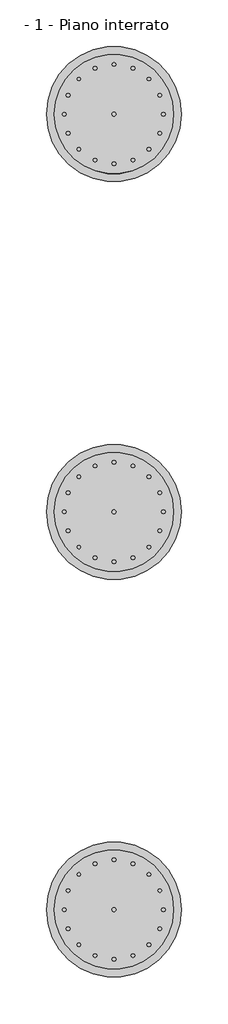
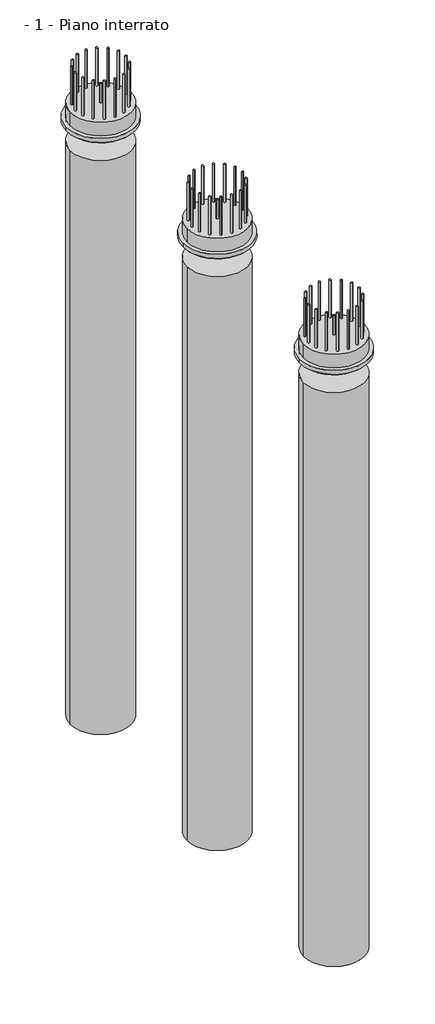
# One storey: 51 proxies.
"""IFC4 building model written with IfcOpenShell, lengths in millimetres."""

from ifc_helpers import new_model, si_unit, origin, place, context, project, spatial, transform, mapped, element, save
from components import generic_models_3b7ed561, generic_models_f891a6ff

model = new_model("IFC4")

# Units and contexts
model_context = context("Model", 3, world=origin())
ifc_project = project(units=[si_unit("LENGTHUNIT", "METRE", prefix="MILLI")], contexts=[model_context])

# Site, building, storey
site = spatial("IfcSite", under=ifc_project)
building = spatial("IfcBuilding", under=site)
storey = spatial("IfcBuildingStorey", under=building, Name="- 1 - Piano interrato", Elevation=-2500.0)

# Proxies
placement = place(None, origin())
generic_models_shape = generic_models_3b7ed561(model_context)
element("IfcBuildingElementProxy", 1, Name="ITA-Connettori su struttura orizzontale sigillati con AKTI-VO 201 : ITA-Connettori su struttura orizzontale sigillati con AKTI-VO 201", ObjectType="ITA-Connettori su struttura orizzontale sigillati con AKTI-VO 201 : ITA-Connettori su struttura orizzontale sigillati con AKTI-VO 201", at=placement, inside=storey, context=model_context, shape_type="MappedRepresentation", body=[
    mapped(generic_models_shape, transform((845.5403408, -12677.0274002, -2900.0), x_axis=(0.0, -1.0, 0.0), y_axis=(1.0, 0.0, 0.0), z_axis=(0.0, 0.0, 1.0))),
])
element("IfcBuildingElementProxy", 2, Name="ITA-Connettori su struttura orizzontale sigillati con AKTI-VO 201 : ITA-Connettori su struttura orizzontale sigillati con AKTI-VO 201", ObjectType="ITA-Connettori su struttura orizzontale sigillati con AKTI-VO 201 : ITA-Connettori su struttura orizzontale sigillati con AKTI-VO 201", at=placement, inside=storey, context=model_context, shape_type="MappedRepresentation", body=[
    mapped(generic_models_shape, transform((855.0553992, -12629.1919711, -2900.0), x_axis=(0.0, -1.0, 0.0), y_axis=(1.0, 0.0, 0.0), z_axis=(0.0, 0.0, 1.0))),
])
element("IfcBuildingElementProxy", 3, Name="ITA-Connettori su struttura orizzontale sigillati con AKTI-VO 201 : ITA-Connettori su struttura orizzontale sigillati con AKTI-VO 201", ObjectType="ITA-Connettori su struttura orizzontale sigillati con AKTI-VO 201 : ITA-Connettori su struttura orizzontale sigillati con AKTI-VO 201", at=placement, inside=storey, context=model_context, shape_type="MappedRepresentation", body=[
    mapped(generic_models_shape, transform((845.5403408, -12581.3565421, -2900.0), x_axis=(0.0, -1.0, 0.0), y_axis=(1.0, 0.0, 0.0), z_axis=(0.0, 0.0, 1.0))),
])
element("IfcBuildingElementProxy", 4, Name="ITA-Connettori su struttura orizzontale sigillati con AKTI-VO 201 : ITA-Connettori su struttura orizzontale sigillati con AKTI-VO 201", ObjectType="ITA-Connettori su struttura orizzontale sigillati con AKTI-VO 201 : ITA-Connettori su struttura orizzontale sigillati con AKTI-VO 201", at=placement, inside=storey, context=model_context, shape_type="MappedRepresentation", body=[
    mapped(generic_models_shape, transform((818.4437469, -12540.8036235, -2900.0), x_axis=(0.0, -1.0, 0.0), y_axis=(1.0, 0.0, 0.0), z_axis=(0.0, 0.0, 1.0))),
])
element("IfcBuildingElementProxy", 5, Name="ITA-Connettori su struttura orizzontale sigillati con AKTI-VO 201 : ITA-Connettori su struttura orizzontale sigillati con AKTI-VO 201", ObjectType="ITA-Connettori su struttura orizzontale sigillati con AKTI-VO 201 : ITA-Connettori su struttura orizzontale sigillati con AKTI-VO 201", at=placement, inside=storey, context=model_context, shape_type="MappedRepresentation", body=[
    mapped(generic_models_shape, transform((777.8908283, -12513.7070296, -2900.0), x_axis=(0.0, -1.0, 0.0), y_axis=(1.0, 0.0, 0.0), z_axis=(0.0, 0.0, 1.0))),
])
element("IfcBuildingElementProxy", 6, Name="ITA-Connettori su struttura orizzontale sigillati con AKTI-VO 201 : ITA-Connettori su struttura orizzontale sigillati con AKTI-VO 201", ObjectType="ITA-Connettori su struttura orizzontale sigillati con AKTI-VO 201 : ITA-Connettori su struttura orizzontale sigillati con AKTI-VO 201", at=placement, inside=storey, context=model_context, shape_type="MappedRepresentation", body=[
    mapped(generic_models_shape, transform((730.0553992, -12504.1919711, -2900.0), x_axis=(0.0, -1.0, 0.0), y_axis=(1.0, 0.0, 0.0), z_axis=(0.0, 0.0, 1.0))),
])
element("IfcBuildingElementProxy", 7, Name="ITA-Connettori su struttura orizzontale sigillati con AKTI-VO 201 : ITA-Connettori su struttura orizzontale sigillati con AKTI-VO 201", ObjectType="ITA-Connettori su struttura orizzontale sigillati con AKTI-VO 201 : ITA-Connettori su struttura orizzontale sigillati con AKTI-VO 201", at=placement, inside=storey, context=model_context, shape_type="MappedRepresentation", body=[
    mapped(generic_models_shape, transform((682.2199702, -12513.7070296, -2900.0), x_axis=(0.0, -1.0, 0.0), y_axis=(1.0, 0.0, 0.0), z_axis=(0.0, 0.0, 1.0))),
])
element("IfcBuildingElementProxy", 8, Name="ITA-Connettori su struttura orizzontale sigillati con AKTI-VO 201 : ITA-Connettori su struttura orizzontale sigillati con AKTI-VO 201", ObjectType="ITA-Connettori su struttura orizzontale sigillati con AKTI-VO 201 : ITA-Connettori su struttura orizzontale sigillati con AKTI-VO 201", at=placement, inside=storey, context=model_context, shape_type="MappedRepresentation", body=[
    mapped(generic_models_shape, transform((641.6670516, -12540.8036235, -2900.0), x_axis=(0.0, -1.0, 0.0), y_axis=(1.0, 0.0, 0.0), z_axis=(0.0, 0.0, 1.0))),
])
element("IfcBuildingElementProxy", 9, Name="ITA-Connettori su struttura orizzontale sigillati con AKTI-VO 201 : ITA-Connettori su struttura orizzontale sigillati con AKTI-VO 201", ObjectType="ITA-Connettori su struttura orizzontale sigillati con AKTI-VO 201 : ITA-Connettori su struttura orizzontale sigillati con AKTI-VO 201", at=placement, inside=storey, context=model_context, shape_type="MappedRepresentation", body=[
    mapped(generic_models_shape, transform((614.5704577, -12581.3565421, -2900.0), x_axis=(0.0, -1.0, 0.0), y_axis=(1.0, 0.0, 0.0), z_axis=(0.0, 0.0, 1.0))),
])
element("IfcBuildingElementProxy", 10, Name="ITA-Connettori su struttura orizzontale sigillati con AKTI-VO 201 : ITA-Connettori su struttura orizzontale sigillati con AKTI-VO 201", ObjectType="ITA-Connettori su struttura orizzontale sigillati con AKTI-VO 201 : ITA-Connettori su struttura orizzontale sigillati con AKTI-VO 201", at=placement, inside=storey, context=model_context, shape_type="MappedRepresentation", body=[
    mapped(generic_models_shape, transform((605.0553992, -12629.1919711, -2900.0), x_axis=(0.0, -1.0, 0.0), y_axis=(1.0, 0.0, 0.0), z_axis=(0.0, 0.0, 1.0))),
])
element("IfcBuildingElementProxy", 11, Name="ITA-Connettori su struttura orizzontale sigillati con AKTI-VO 201 : ITA-Connettori su struttura orizzontale sigillati con AKTI-VO 201", ObjectType="ITA-Connettori su struttura orizzontale sigillati con AKTI-VO 201 : ITA-Connettori su struttura orizzontale sigillati con AKTI-VO 201", at=placement, inside=storey, context=model_context, shape_type="MappedRepresentation", body=[
    mapped(generic_models_shape, transform((614.5704577, -12677.0274002, -2900.0), x_axis=(0.0, -1.0, 0.0), y_axis=(1.0, 0.0, 0.0), z_axis=(0.0, 0.0, 1.0))),
])
element("IfcBuildingElementProxy", 12, Name="ITA-Connettori su struttura orizzontale sigillati con AKTI-VO 201 : ITA-Connettori su struttura orizzontale sigillati con AKTI-VO 201", ObjectType="ITA-Connettori su struttura orizzontale sigillati con AKTI-VO 201 : ITA-Connettori su struttura orizzontale sigillati con AKTI-VO 201", at=placement, inside=storey, context=model_context, shape_type="MappedRepresentation", body=[
    mapped(generic_models_shape, transform((641.6670516, -12717.5803188, -2900.0), x_axis=(0.0, -1.0, 0.0), y_axis=(1.0, 0.0, 0.0), z_axis=(0.0, 0.0, 1.0))),
])
element("IfcBuildingElementProxy", 13, Name="ITA-Connettori su struttura orizzontale sigillati con AKTI-VO 201 : ITA-Connettori su struttura orizzontale sigillati con AKTI-VO 201", ObjectType="ITA-Connettori su struttura orizzontale sigillati con AKTI-VO 201 : ITA-Connettori su struttura orizzontale sigillati con AKTI-VO 201", at=placement, inside=storey, context=model_context, shape_type="MappedRepresentation", body=[
    mapped(generic_models_shape, transform((682.2199702, -12744.6769127, -2900.0), x_axis=(0.0, -1.0, 0.0), y_axis=(1.0, 0.0, 0.0), z_axis=(0.0, 0.0, 1.0))),
])
element("IfcBuildingElementProxy", 14, Name="ITA-Connettori su struttura orizzontale sigillati con AKTI-VO 201 : ITA-Connettori su struttura orizzontale sigillati con AKTI-VO 201", ObjectType="ITA-Connettori su struttura orizzontale sigillati con AKTI-VO 201 : ITA-Connettori su struttura orizzontale sigillati con AKTI-VO 201", at=placement, inside=storey, context=model_context, shape_type="MappedRepresentation", body=[
    mapped(generic_models_shape, transform((730.0553992, -12754.1919711, -2900.0), x_axis=(0.0, -1.0, 0.0), y_axis=(1.0, 0.0, 0.0), z_axis=(0.0, 0.0, 1.0))),
])
element("IfcBuildingElementProxy", 15, Name="ITA-Connettori su struttura orizzontale sigillati con AKTI-VO 201 : ITA-Connettori su struttura orizzontale sigillati con AKTI-VO 201", ObjectType="ITA-Connettori su struttura orizzontale sigillati con AKTI-VO 201 : ITA-Connettori su struttura orizzontale sigillati con AKTI-VO 201", at=placement, inside=storey, context=model_context, shape_type="MappedRepresentation", body=[
    mapped(generic_models_shape, transform((777.8908283, -12744.6769127, -2900.0), x_axis=(0.0, -1.0, 0.0), y_axis=(1.0, 0.0, 0.0), z_axis=(0.0, 0.0, 1.0))),
])
element("IfcBuildingElementProxy", 16, Name="ITA-Connettori su struttura orizzontale sigillati con AKTI-VO 201 : ITA-Connettori su struttura orizzontale sigillati con AKTI-VO 201", ObjectType="ITA-Connettori su struttura orizzontale sigillati con AKTI-VO 201 : ITA-Connettori su struttura orizzontale sigillati con AKTI-VO 201", at=placement, inside=storey, context=model_context, shape_type="MappedRepresentation", body=[
    mapped(generic_models_shape, transform((818.4437469, -12717.5803188, -2900.0), x_axis=(0.0, -1.0, 0.0), y_axis=(1.0, 0.0, 0.0), z_axis=(0.0, 0.0, 1.0))),
])
element("IfcBuildingElementProxy", 17, Name="ITA-Connettori su struttura orizzontale sigillati con AKTI-VO 201 : ITA-Connettori su struttura orizzontale sigillati con AKTI-VO 201", ObjectType="ITA-Connettori su struttura orizzontale sigillati con AKTI-VO 201 : ITA-Connettori su struttura orizzontale sigillati con AKTI-VO 201", at=placement, inside=storey, context=model_context, shape_type="MappedRepresentation", body=[
    mapped(generic_models_shape, transform((845.5403408, -13677.0274002, -2900.0), x_axis=(0.0, -1.0, 0.0), y_axis=(1.0, 0.0, 0.0), z_axis=(0.0, 0.0, 1.0))),
])
element("IfcBuildingElementProxy", 18, Name="ITA-Connettori su struttura orizzontale sigillati con AKTI-VO 201 : ITA-Connettori su struttura orizzontale sigillati con AKTI-VO 201", ObjectType="ITA-Connettori su struttura orizzontale sigillati con AKTI-VO 201 : ITA-Connettori su struttura orizzontale sigillati con AKTI-VO 201", at=placement, inside=storey, context=model_context, shape_type="MappedRepresentation", body=[
    mapped(generic_models_shape, transform((855.0553992, -13629.1919711, -2900.0), x_axis=(0.0, -1.0, 0.0), y_axis=(1.0, 0.0, 0.0), z_axis=(0.0, 0.0, 1.0))),
])
element("IfcBuildingElementProxy", 19, Name="ITA-Connettori su struttura orizzontale sigillati con AKTI-VO 201 : ITA-Connettori su struttura orizzontale sigillati con AKTI-VO 201", ObjectType="ITA-Connettori su struttura orizzontale sigillati con AKTI-VO 201 : ITA-Connettori su struttura orizzontale sigillati con AKTI-VO 201", at=placement, inside=storey, context=model_context, shape_type="MappedRepresentation", body=[
    mapped(generic_models_shape, transform((845.5403408, -13581.3565421, -2900.0), x_axis=(0.0, -1.0, 0.0), y_axis=(1.0, 0.0, 0.0), z_axis=(0.0, 0.0, 1.0))),
])
element("IfcBuildingElementProxy", 20, Name="ITA-Connettori su struttura orizzontale sigillati con AKTI-VO 201 : ITA-Connettori su struttura orizzontale sigillati con AKTI-VO 201", ObjectType="ITA-Connettori su struttura orizzontale sigillati con AKTI-VO 201 : ITA-Connettori su struttura orizzontale sigillati con AKTI-VO 201", at=placement, inside=storey, context=model_context, shape_type="MappedRepresentation", body=[
    mapped(generic_models_shape, transform((818.4437469, -13540.8036235, -2900.0), x_axis=(0.0, -1.0, 0.0), y_axis=(1.0, 0.0, 0.0), z_axis=(0.0, 0.0, 1.0))),
])
element("IfcBuildingElementProxy", 21, Name="ITA-Connettori su struttura orizzontale sigillati con AKTI-VO 201 : ITA-Connettori su struttura orizzontale sigillati con AKTI-VO 201", ObjectType="ITA-Connettori su struttura orizzontale sigillati con AKTI-VO 201 : ITA-Connettori su struttura orizzontale sigillati con AKTI-VO 201", at=placement, inside=storey, context=model_context, shape_type="MappedRepresentation", body=[
    mapped(generic_models_shape, transform((777.8908283, -13513.7070296, -2900.0), x_axis=(0.0, -1.0, 0.0), y_axis=(1.0, 0.0, 0.0), z_axis=(0.0, 0.0, 1.0))),
])
element("IfcBuildingElementProxy", 22, Name="ITA-Connettori su struttura orizzontale sigillati con AKTI-VO 201 : ITA-Connettori su struttura orizzontale sigillati con AKTI-VO 201", ObjectType="ITA-Connettori su struttura orizzontale sigillati con AKTI-VO 201 : ITA-Connettori su struttura orizzontale sigillati con AKTI-VO 201", at=placement, inside=storey, context=model_context, shape_type="MappedRepresentation", body=[
    mapped(generic_models_shape, transform((730.0553992, -13504.1919711, -2900.0), x_axis=(0.0, -1.0, 0.0), y_axis=(1.0, 0.0, 0.0), z_axis=(0.0, 0.0, 1.0))),
])
element("IfcBuildingElementProxy", 23, Name="ITA-Connettori su struttura orizzontale sigillati con AKTI-VO 201 : ITA-Connettori su struttura orizzontale sigillati con AKTI-VO 201", ObjectType="ITA-Connettori su struttura orizzontale sigillati con AKTI-VO 201 : ITA-Connettori su struttura orizzontale sigillati con AKTI-VO 201", at=placement, inside=storey, context=model_context, shape_type="MappedRepresentation", body=[
    mapped(generic_models_shape, transform((682.2199702, -13513.7070296, -2900.0), x_axis=(0.0, -1.0, 0.0), y_axis=(1.0, 0.0, 0.0), z_axis=(0.0, 0.0, 1.0))),
])
element("IfcBuildingElementProxy", 24, Name="ITA-Connettori su struttura orizzontale sigillati con AKTI-VO 201 : ITA-Connettori su struttura orizzontale sigillati con AKTI-VO 201", ObjectType="ITA-Connettori su struttura orizzontale sigillati con AKTI-VO 201 : ITA-Connettori su struttura orizzontale sigillati con AKTI-VO 201", at=placement, inside=storey, context=model_context, shape_type="MappedRepresentation", body=[
    mapped(generic_models_shape, transform((641.6670516, -13540.8036235, -2900.0), x_axis=(0.0, -1.0, 0.0), y_axis=(1.0, 0.0, 0.0), z_axis=(0.0, 0.0, 1.0))),
])
element("IfcBuildingElementProxy", 25, Name="ITA-Connettori su struttura orizzontale sigillati con AKTI-VO 201 : ITA-Connettori su struttura orizzontale sigillati con AKTI-VO 201", ObjectType="ITA-Connettori su struttura orizzontale sigillati con AKTI-VO 201 : ITA-Connettori su struttura orizzontale sigillati con AKTI-VO 201", at=placement, inside=storey, context=model_context, shape_type="MappedRepresentation", body=[
    mapped(generic_models_shape, transform((614.5704577, -13581.3565421, -2900.0), x_axis=(0.0, -1.0, 0.0), y_axis=(1.0, 0.0, 0.0), z_axis=(0.0, 0.0, 1.0))),
])
element("IfcBuildingElementProxy", 26, Name="ITA-Connettori su struttura orizzontale sigillati con AKTI-VO 201 : ITA-Connettori su struttura orizzontale sigillati con AKTI-VO 201", ObjectType="ITA-Connettori su struttura orizzontale sigillati con AKTI-VO 201 : ITA-Connettori su struttura orizzontale sigillati con AKTI-VO 201", at=placement, inside=storey, context=model_context, shape_type="MappedRepresentation", body=[
    mapped(generic_models_shape, transform((605.0553992, -13629.1919711, -2900.0), x_axis=(0.0, -1.0, 0.0), y_axis=(1.0, 0.0, 0.0), z_axis=(0.0, 0.0, 1.0))),
])
element("IfcBuildingElementProxy", 27, Name="ITA-Connettori su struttura orizzontale sigillati con AKTI-VO 201 : ITA-Connettori su struttura orizzontale sigillati con AKTI-VO 201", ObjectType="ITA-Connettori su struttura orizzontale sigillati con AKTI-VO 201 : ITA-Connettori su struttura orizzontale sigillati con AKTI-VO 201", at=placement, inside=storey, context=model_context, shape_type="MappedRepresentation", body=[
    mapped(generic_models_shape, transform((614.5704577, -13677.0274002, -2900.0), x_axis=(0.0, -1.0, 0.0), y_axis=(1.0, 0.0, 0.0), z_axis=(0.0, 0.0, 1.0))),
])
element("IfcBuildingElementProxy", 28, Name="ITA-Connettori su struttura orizzontale sigillati con AKTI-VO 201 : ITA-Connettori su struttura orizzontale sigillati con AKTI-VO 201", ObjectType="ITA-Connettori su struttura orizzontale sigillati con AKTI-VO 201 : ITA-Connettori su struttura orizzontale sigillati con AKTI-VO 201", at=placement, inside=storey, context=model_context, shape_type="MappedRepresentation", body=[
    mapped(generic_models_shape, transform((641.6670516, -13717.5803188, -2900.0), x_axis=(0.0, -1.0, 0.0), y_axis=(1.0, 0.0, 0.0), z_axis=(0.0, 0.0, 1.0))),
])
element("IfcBuildingElementProxy", 29, Name="ITA-Connettori su struttura orizzontale sigillati con AKTI-VO 201 : ITA-Connettori su struttura orizzontale sigillati con AKTI-VO 201", ObjectType="ITA-Connettori su struttura orizzontale sigillati con AKTI-VO 201 : ITA-Connettori su struttura orizzontale sigillati con AKTI-VO 201", at=placement, inside=storey, context=model_context, shape_type="MappedRepresentation", body=[
    mapped(generic_models_shape, transform((682.2199702, -13744.6769127, -2900.0), x_axis=(0.0, -1.0, 0.0), y_axis=(1.0, 0.0, 0.0), z_axis=(0.0, 0.0, 1.0))),
])
element("IfcBuildingElementProxy", 30, Name="ITA-Connettori su struttura orizzontale sigillati con AKTI-VO 201 : ITA-Connettori su struttura orizzontale sigillati con AKTI-VO 201", ObjectType="ITA-Connettori su struttura orizzontale sigillati con AKTI-VO 201 : ITA-Connettori su struttura orizzontale sigillati con AKTI-VO 201", at=placement, inside=storey, context=model_context, shape_type="MappedRepresentation", body=[
    mapped(generic_models_shape, transform((730.0553992, -13754.1919711, -2900.0), x_axis=(0.0, -1.0, 0.0), y_axis=(1.0, 0.0, 0.0), z_axis=(0.0, 0.0, 1.0))),
])
element("IfcBuildingElementProxy", 31, Name="ITA-Connettori su struttura orizzontale sigillati con AKTI-VO 201 : ITA-Connettori su struttura orizzontale sigillati con AKTI-VO 201", ObjectType="ITA-Connettori su struttura orizzontale sigillati con AKTI-VO 201 : ITA-Connettori su struttura orizzontale sigillati con AKTI-VO 201", at=placement, inside=storey, context=model_context, shape_type="MappedRepresentation", body=[
    mapped(generic_models_shape, transform((777.8908283, -13744.6769127, -2900.0), x_axis=(0.0, -1.0, 0.0), y_axis=(1.0, 0.0, 0.0), z_axis=(0.0, 0.0, 1.0))),
])
element("IfcBuildingElementProxy", 32, Name="ITA-Connettori su struttura orizzontale sigillati con AKTI-VO 201 : ITA-Connettori su struttura orizzontale sigillati con AKTI-VO 201", ObjectType="ITA-Connettori su struttura orizzontale sigillati con AKTI-VO 201 : ITA-Connettori su struttura orizzontale sigillati con AKTI-VO 201", at=placement, inside=storey, context=model_context, shape_type="MappedRepresentation", body=[
    mapped(generic_models_shape, transform((818.4437469, -13717.5803188, -2900.0), x_axis=(0.0, -1.0, 0.0), y_axis=(1.0, 0.0, 0.0), z_axis=(0.0, 0.0, 1.0))),
])
element("IfcBuildingElementProxy", 33, Name="ITA-Connettori su struttura orizzontale sigillati con AKTI-VO 201 : ITA-Connettori su struttura orizzontale sigillati con AKTI-VO 201", ObjectType="ITA-Connettori su struttura orizzontale sigillati con AKTI-VO 201 : ITA-Connettori su struttura orizzontale sigillati con AKTI-VO 201", at=placement, inside=storey, context=model_context, shape_type="MappedRepresentation", body=[
    mapped(generic_models_shape, transform((845.5403408, -14677.0274002, -2900.0), x_axis=(0.0, -1.0, 0.0), y_axis=(1.0, 0.0, 0.0), z_axis=(0.0, 0.0, 1.0))),
])
element("IfcBuildingElementProxy", 34, Name="ITA-Connettori su struttura orizzontale sigillati con AKTI-VO 201 : ITA-Connettori su struttura orizzontale sigillati con AKTI-VO 201", ObjectType="ITA-Connettori su struttura orizzontale sigillati con AKTI-VO 201 : ITA-Connettori su struttura orizzontale sigillati con AKTI-VO 201", at=placement, inside=storey, context=model_context, shape_type="MappedRepresentation", body=[
    mapped(generic_models_shape, transform((855.0553992, -14629.1919711, -2900.0), x_axis=(0.0, -1.0, 0.0), y_axis=(1.0, 0.0, 0.0), z_axis=(0.0, 0.0, 1.0))),
])
element("IfcBuildingElementProxy", 35, Name="ITA-Connettori su struttura orizzontale sigillati con AKTI-VO 201 : ITA-Connettori su struttura orizzontale sigillati con AKTI-VO 201", ObjectType="ITA-Connettori su struttura orizzontale sigillati con AKTI-VO 201 : ITA-Connettori su struttura orizzontale sigillati con AKTI-VO 201", at=placement, inside=storey, context=model_context, shape_type="MappedRepresentation", body=[
    mapped(generic_models_shape, transform((845.5403408, -14581.3565421, -2900.0), x_axis=(0.0, -1.0, 0.0), y_axis=(1.0, 0.0, 0.0), z_axis=(0.0, 0.0, 1.0))),
])
element("IfcBuildingElementProxy", 36, Name="ITA-Connettori su struttura orizzontale sigillati con AKTI-VO 201 : ITA-Connettori su struttura orizzontale sigillati con AKTI-VO 201", ObjectType="ITA-Connettori su struttura orizzontale sigillati con AKTI-VO 201 : ITA-Connettori su struttura orizzontale sigillati con AKTI-VO 201", at=placement, inside=storey, context=model_context, shape_type="MappedRepresentation", body=[
    mapped(generic_models_shape, transform((818.4437469, -14540.8036235, -2900.0), x_axis=(0.0, -1.0, 0.0), y_axis=(1.0, 0.0, 0.0), z_axis=(0.0, 0.0, 1.0))),
])
element("IfcBuildingElementProxy", 37, Name="ITA-Connettori su struttura orizzontale sigillati con AKTI-VO 201 : ITA-Connettori su struttura orizzontale sigillati con AKTI-VO 201", ObjectType="ITA-Connettori su struttura orizzontale sigillati con AKTI-VO 201 : ITA-Connettori su struttura orizzontale sigillati con AKTI-VO 201", at=placement, inside=storey, context=model_context, shape_type="MappedRepresentation", body=[
    mapped(generic_models_shape, transform((777.8908283, -14513.7070296, -2900.0), x_axis=(0.0, -1.0, 0.0), y_axis=(1.0, 0.0, 0.0), z_axis=(0.0, 0.0, 1.0))),
])
element("IfcBuildingElementProxy", 38, Name="ITA-Connettori su struttura orizzontale sigillati con AKTI-VO 201 : ITA-Connettori su struttura orizzontale sigillati con AKTI-VO 201", ObjectType="ITA-Connettori su struttura orizzontale sigillati con AKTI-VO 201 : ITA-Connettori su struttura orizzontale sigillati con AKTI-VO 201", at=placement, inside=storey, context=model_context, shape_type="MappedRepresentation", body=[
    mapped(generic_models_shape, transform((730.0553992, -14504.1919711, -2900.0), x_axis=(0.0, -1.0, 0.0), y_axis=(1.0, 0.0, 0.0), z_axis=(0.0, 0.0, 1.0))),
])
element("IfcBuildingElementProxy", 39, Name="ITA-Connettori su struttura orizzontale sigillati con AKTI-VO 201 : ITA-Connettori su struttura orizzontale sigillati con AKTI-VO 201", ObjectType="ITA-Connettori su struttura orizzontale sigillati con AKTI-VO 201 : ITA-Connettori su struttura orizzontale sigillati con AKTI-VO 201", at=placement, inside=storey, context=model_context, shape_type="MappedRepresentation", body=[
    mapped(generic_models_shape, transform((682.2199702, -14513.7070296, -2900.0), x_axis=(0.0, -1.0, 0.0), y_axis=(1.0, 0.0, 0.0), z_axis=(0.0, 0.0, 1.0))),
])
element("IfcBuildingElementProxy", 40, Name="ITA-Connettori su struttura orizzontale sigillati con AKTI-VO 201 : ITA-Connettori su struttura orizzontale sigillati con AKTI-VO 201", ObjectType="ITA-Connettori su struttura orizzontale sigillati con AKTI-VO 201 : ITA-Connettori su struttura orizzontale sigillati con AKTI-VO 201", at=placement, inside=storey, context=model_context, shape_type="MappedRepresentation", body=[
    mapped(generic_models_shape, transform((641.6670516, -14540.8036235, -2900.0), x_axis=(0.0, -1.0, 0.0), y_axis=(1.0, 0.0, 0.0), z_axis=(0.0, 0.0, 1.0))),
])
element("IfcBuildingElementProxy", 41, Name="ITA-Connettori su struttura orizzontale sigillati con AKTI-VO 201 : ITA-Connettori su struttura orizzontale sigillati con AKTI-VO 201", ObjectType="ITA-Connettori su struttura orizzontale sigillati con AKTI-VO 201 : ITA-Connettori su struttura orizzontale sigillati con AKTI-VO 201", at=placement, inside=storey, context=model_context, shape_type="MappedRepresentation", body=[
    mapped(generic_models_shape, transform((614.5704577, -14581.3565421, -2900.0), x_axis=(0.0, -1.0, 0.0), y_axis=(1.0, 0.0, 0.0), z_axis=(0.0, 0.0, 1.0))),
])
element("IfcBuildingElementProxy", 42, Name="ITA-Connettori su struttura orizzontale sigillati con AKTI-VO 201 : ITA-Connettori su struttura orizzontale sigillati con AKTI-VO 201", ObjectType="ITA-Connettori su struttura orizzontale sigillati con AKTI-VO 201 : ITA-Connettori su struttura orizzontale sigillati con AKTI-VO 201", at=placement, inside=storey, context=model_context, shape_type="MappedRepresentation", body=[
    mapped(generic_models_shape, transform((605.0553992, -14629.1919711, -2900.0), x_axis=(0.0, -1.0, 0.0), y_axis=(1.0, 0.0, 0.0), z_axis=(0.0, 0.0, 1.0))),
])
element("IfcBuildingElementProxy", 43, Name="ITA-Connettori su struttura orizzontale sigillati con AKTI-VO 201 : ITA-Connettori su struttura orizzontale sigillati con AKTI-VO 201", ObjectType="ITA-Connettori su struttura orizzontale sigillati con AKTI-VO 201 : ITA-Connettori su struttura orizzontale sigillati con AKTI-VO 201", at=placement, inside=storey, context=model_context, shape_type="MappedRepresentation", body=[
    mapped(generic_models_shape, transform((614.5704577, -14677.0274002, -2900.0), x_axis=(0.0, -1.0, 0.0), y_axis=(1.0, 0.0, 0.0), z_axis=(0.0, 0.0, 1.0))),
])
element("IfcBuildingElementProxy", 44, Name="ITA-Connettori su struttura orizzontale sigillati con AKTI-VO 201 : ITA-Connettori su struttura orizzontale sigillati con AKTI-VO 201", ObjectType="ITA-Connettori su struttura orizzontale sigillati con AKTI-VO 201 : ITA-Connettori su struttura orizzontale sigillati con AKTI-VO 201", at=placement, inside=storey, context=model_context, shape_type="MappedRepresentation", body=[
    mapped(generic_models_shape, transform((641.6670516, -14717.5803188, -2900.0), x_axis=(0.0, -1.0, 0.0), y_axis=(1.0, 0.0, 0.0), z_axis=(0.0, 0.0, 1.0))),
])
element("IfcBuildingElementProxy", 45, Name="ITA-Connettori su struttura orizzontale sigillati con AKTI-VO 201 : ITA-Connettori su struttura orizzontale sigillati con AKTI-VO 201", ObjectType="ITA-Connettori su struttura orizzontale sigillati con AKTI-VO 201 : ITA-Connettori su struttura orizzontale sigillati con AKTI-VO 201", at=placement, inside=storey, context=model_context, shape_type="MappedRepresentation", body=[
    mapped(generic_models_shape, transform((682.2199702, -14744.6769127, -2900.0), x_axis=(0.0, -1.0, 0.0), y_axis=(1.0, 0.0, 0.0), z_axis=(0.0, 0.0, 1.0))),
])
element("IfcBuildingElementProxy", 46, Name="ITA-Connettori su struttura orizzontale sigillati con AKTI-VO 201 : ITA-Connettori su struttura orizzontale sigillati con AKTI-VO 201", ObjectType="ITA-Connettori su struttura orizzontale sigillati con AKTI-VO 201 : ITA-Connettori su struttura orizzontale sigillati con AKTI-VO 201", at=placement, inside=storey, context=model_context, shape_type="MappedRepresentation", body=[
    mapped(generic_models_shape, transform((730.0553992, -14754.1919711, -2900.0), x_axis=(0.0, -1.0, 0.0), y_axis=(1.0, 0.0, 0.0), z_axis=(0.0, 0.0, 1.0))),
])
element("IfcBuildingElementProxy", 47, Name="ITA-Connettori su struttura orizzontale sigillati con AKTI-VO 201 : ITA-Connettori su struttura orizzontale sigillati con AKTI-VO 201", ObjectType="ITA-Connettori su struttura orizzontale sigillati con AKTI-VO 201 : ITA-Connettori su struttura orizzontale sigillati con AKTI-VO 201", at=placement, inside=storey, context=model_context, shape_type="MappedRepresentation", body=[
    mapped(generic_models_shape, transform((777.8908283, -14744.6769127, -2900.0), x_axis=(0.0, -1.0, 0.0), y_axis=(1.0, 0.0, 0.0), z_axis=(0.0, 0.0, 1.0))),
])
element("IfcBuildingElementProxy", 48, Name="ITA-Connettori su struttura orizzontale sigillati con AKTI-VO 201 : ITA-Connettori su struttura orizzontale sigillati con AKTI-VO 201", ObjectType="ITA-Connettori su struttura orizzontale sigillati con AKTI-VO 201 : ITA-Connettori su struttura orizzontale sigillati con AKTI-VO 201", at=placement, inside=storey, context=model_context, shape_type="MappedRepresentation", body=[
    mapped(generic_models_shape, transform((818.4437469, -14717.5803188, -2900.0), x_axis=(0.0, -1.0, 0.0), y_axis=(1.0, 0.0, 0.0), z_axis=(0.0, 0.0, 1.0))),
])
generic_models_2_shape = generic_models_f891a6ff(model_context)
element("IfcBuildingElementProxy", 49, Name="ITA-Palo di fondazione con Amphibia non passante : ITA-Palo di fondazione con Amphibia non passante", ObjectType="ITA-Palo di fondazione con Amphibia non passante : ITA-Palo di fondazione con Amphibia non passante", at=placement, inside=storey, context=model_context, shape_type="MappedRepresentation", body=[
    mapped(generic_models_2_shape, transform((730.0553992, -14629.1919711, -3000.0), x_axis=(-1.0, 0.0, 0.0), y_axis=(0.0, -1.0, 0.0), z_axis=(0.0, 0.0, 1.0))),
])
element("IfcBuildingElementProxy", 50, Name="ITA-Palo di fondazione con Amphibia non passante : ITA-Palo di fondazione con Amphibia non passante", ObjectType="ITA-Palo di fondazione con Amphibia non passante : ITA-Palo di fondazione con Amphibia non passante", at=placement, inside=storey, context=model_context, shape_type="MappedRepresentation", body=[
    mapped(generic_models_2_shape, transform((730.0553992, -13629.1919711, -3000.0), x_axis=(-1.0, 0.0, 0.0), y_axis=(0.0, -1.0, 0.0), z_axis=(0.0, 0.0, 1.0))),
])
element("IfcBuildingElementProxy", 51, Name="ITA-Palo di fondazione con Amphibia non passante : ITA-Palo di fondazione con Amphibia non passante", ObjectType="ITA-Palo di fondazione con Amphibia non passante : ITA-Palo di fondazione con Amphibia non passante", at=placement, inside=storey, context=model_context, shape_type="MappedRepresentation", body=[
    mapped(generic_models_2_shape, transform((730.0553992, -12629.1919711, -3000.0), x_axis=(-1.0, 0.0, 0.0), y_axis=(0.0, -1.0, 0.0), z_axis=(0.0, 0.0, 1.0))),
])

save(model, "model.ifc")
